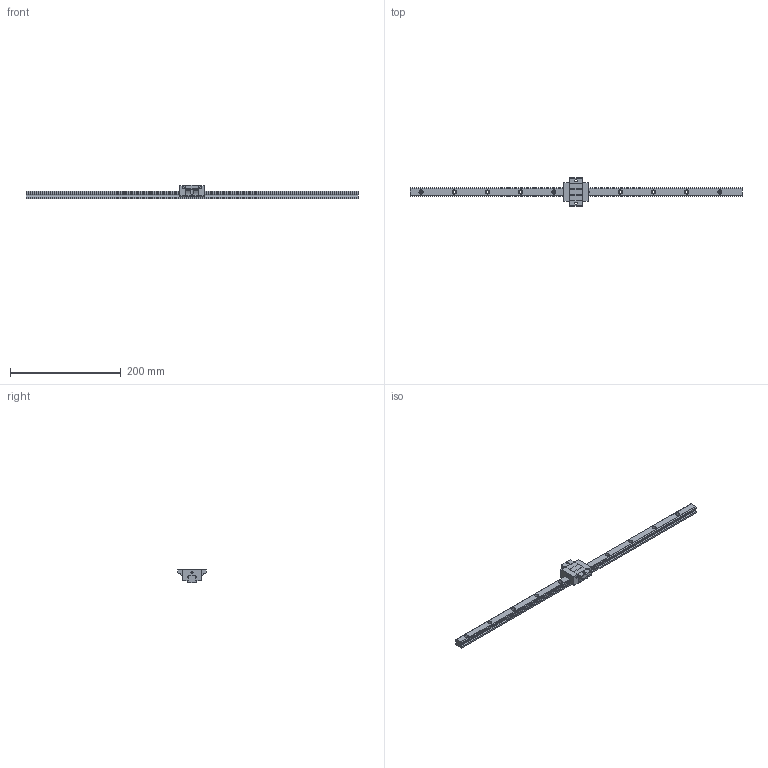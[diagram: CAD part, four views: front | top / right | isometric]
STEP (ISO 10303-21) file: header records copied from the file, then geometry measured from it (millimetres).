
FILE_DESCRIPTION (( 'STEP AP203' ), '1' );
FILE_NAME ('TRS15FS-SU.STEP', '2024-07-10T09:29:13', ( '' ), ( '' ), 'SwSTEP 2.0', 'SolidWorks 2022', '' );
FILE_SCHEMA (( 'CONFIG_CONTROL_DESIGN' ));
Length unit declared in the file: millimetre
Products named in the file (1): TRS15FS-SU
Bounding box: 600 x 52 x 24 mm (x, y, z)
Volume: 128197.6 mm3; surface area: 45448.3 mm2
Topology: 2 solids, 2 shells, 222 faces, 590 edges, 384 vertices
Faces by surface type: cylinder 116, plane 102, sphere 4
Entity records: 7291 total; most frequent: CARTESIAN_POINT 1503, DIRECTION 1226, ORIENTED_EDGE 1172, EDGE_CURVE 586, AXIS2_PLACEMENT_3D 437, VERTEX_POINT 384, LINE 352, VECTOR 352
